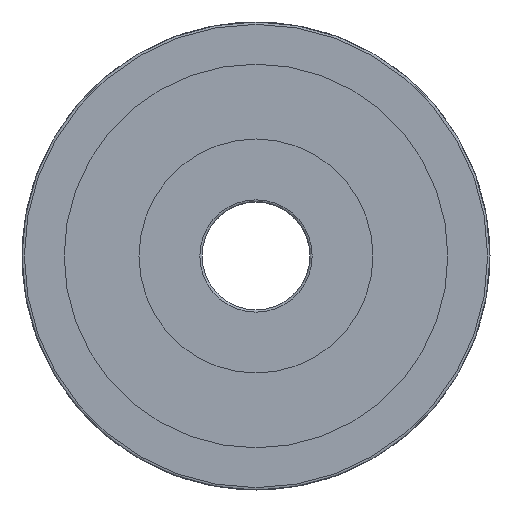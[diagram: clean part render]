
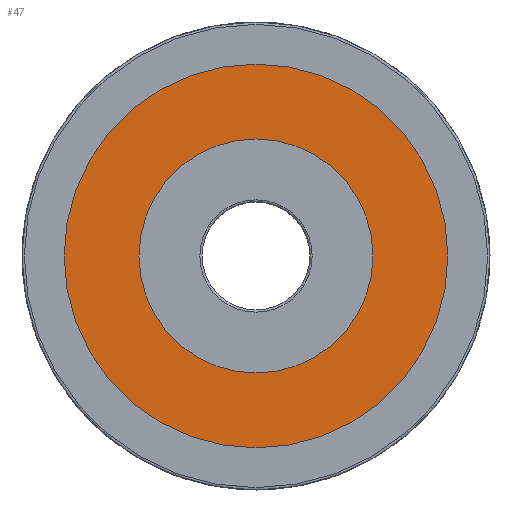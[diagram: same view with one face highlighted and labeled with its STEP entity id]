
A CAD part, left-side view. The second image highlights one B-rep face of the part: STEP entity #47.
In plain terms, the highlighted planar face has unit normal (-1, 0, 0).
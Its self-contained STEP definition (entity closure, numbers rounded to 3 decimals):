
#2=CARTESIAN_POINT('',(-521.307,-406.109,82.0));
#3=DIRECTION('',(1.0,0.0,0.0));
#4=DIRECTION('',(0.0,-1.0,0.0));
#5=AXIS2_PLACEMENT_3D('',#2,#3,#4);
#6=PLANE('',#5);
#7=CARTESIAN_POINT('',(-521.307,-488.109,-41.0));
#8=VERTEX_POINT('',#7);
#9=CARTESIAN_POINT('',(-521.307,-488.109,41.0));
#10=VERTEX_POINT('',#9);
#11=CARTESIAN_POINT('',(-521.307,-488.109,0.0));
#12=DIRECTION('',(1.0,0.0,0.0));
#13=DIRECTION('',(0.0,0.0,1.0));
#14=AXIS2_PLACEMENT_3D('',#11,#12,#13);
#15=CIRCLE('',#14,41.0);
#16=EDGE_CURVE('',#8,#10,#15,.T.);
#17=ORIENTED_EDGE('',*,*,#16,.F.);
#18=CARTESIAN_POINT('',(-521.307,-488.109,0.0));
#19=DIRECTION('',(1.0,0.0,0.0));
#20=DIRECTION('',(0.0,0.0,1.0));
#21=AXIS2_PLACEMENT_3D('',#18,#19,#20);
#22=CIRCLE('',#21,41.0);
#23=EDGE_CURVE('',#10,#8,#22,.T.);
#24=ORIENTED_EDGE('',*,*,#23,.F.);
#25=EDGE_LOOP('',(#17,#24));
#26=FACE_OUTER_BOUND('',#25,.T.);
#27=CARTESIAN_POINT('',(-521.307,-488.109,25.0));
#28=VERTEX_POINT('',#27);
#29=CARTESIAN_POINT('',(-521.307,-488.109,-25.0));
#30=VERTEX_POINT('',#29);
#31=CARTESIAN_POINT('',(-521.307,-488.109,0.0));
#32=DIRECTION('',(1.0,0.0,0.0));
#33=DIRECTION('',(0.0,0.0,1.0));
#34=AXIS2_PLACEMENT_3D('',#31,#32,#33);
#35=CIRCLE('',#34,25.0);
#36=EDGE_CURVE('',#28,#30,#35,.T.);
#37=ORIENTED_EDGE('',*,*,#36,.T.);
#38=CARTESIAN_POINT('',(-521.307,-488.109,0.0));
#39=DIRECTION('',(1.0,0.0,0.0));
#40=DIRECTION('',(0.0,0.0,1.0));
#41=AXIS2_PLACEMENT_3D('',#38,#39,#40);
#42=CIRCLE('',#41,25.0);
#43=EDGE_CURVE('',#30,#28,#42,.T.);
#44=ORIENTED_EDGE('',*,*,#43,.T.);
#45=EDGE_LOOP('',(#37,#44));
#46=FACE_BOUND('',#45,.T.);
#47=ADVANCED_FACE('',(#26,#46),#6,.F.);
